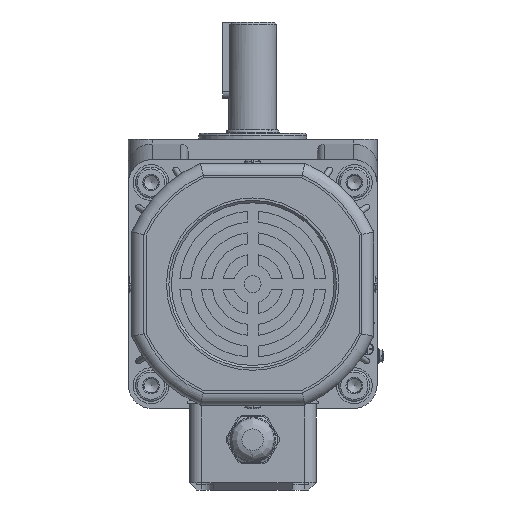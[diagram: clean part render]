
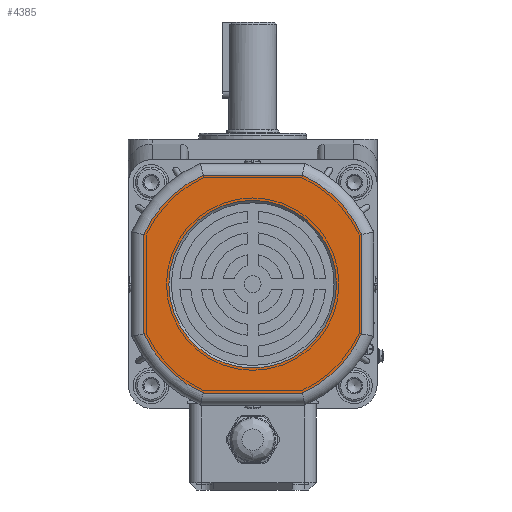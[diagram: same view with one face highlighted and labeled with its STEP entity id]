
A CAD part, left-side view. The second image highlights one B-rep face of the part: STEP entity #4385.
In plain terms, the highlighted planar face has unit normal (-1, 0, 0).
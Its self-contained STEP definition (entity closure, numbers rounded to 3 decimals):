
#4385=ADVANCED_FACE('',(#10573,#10574),#6046,.F.);
#6046=PLANE('',#32885);
#7275=LINE('',#46946,#9123);
#7276=LINE('',#46951,#9124);
#7277=LINE('',#46955,#9125);
#7278=LINE('',#46959,#9126);
#9123=VECTOR('',#37845,1.);
#9124=VECTOR('',#37848,1.);
#9125=VECTOR('',#37851,1.);
#9126=VECTOR('',#37854,1.);
#10573=FACE_BOUND('',#11887,.T.);
#10574=FACE_BOUND('',#11888,.T.);
#11887=EDGE_LOOP('',(#15928,#15929,#15930,#15931,#15932,#15933,#15934,#15935));
#11888=EDGE_LOOP('',(#15936));
#15928=ORIENTED_EDGE('',*,*,#26844,.T.);
#15929=ORIENTED_EDGE('',*,*,#26845,.T.);
#15930=ORIENTED_EDGE('',*,*,#26846,.T.);
#15931=ORIENTED_EDGE('',*,*,#26847,.T.);
#15932=ORIENTED_EDGE('',*,*,#26848,.T.);
#15933=ORIENTED_EDGE('',*,*,#26849,.T.);
#15934=ORIENTED_EDGE('',*,*,#26850,.T.);
#15935=ORIENTED_EDGE('',*,*,#26851,.T.);
#15936=ORIENTED_EDGE('',*,*,#26852,.T.);
#23442=VERTEX_POINT('',#46947);
#23443=VERTEX_POINT('',#46948);
#23444=VERTEX_POINT('',#46950);
#23445=VERTEX_POINT('',#46952);
#23446=VERTEX_POINT('',#46954);
#23447=VERTEX_POINT('',#46956);
#23448=VERTEX_POINT('',#46958);
#23449=VERTEX_POINT('',#46960);
#23450=VERTEX_POINT('',#46963);
#26844=EDGE_CURVE('',#23442,#23443,#7275,.T.);
#26845=EDGE_CURVE('',#23443,#23444,#30798,.T.);
#26846=EDGE_CURVE('',#23444,#23445,#7276,.T.);
#26847=EDGE_CURVE('',#23445,#23446,#30799,.T.);
#26848=EDGE_CURVE('',#23446,#23447,#7277,.T.);
#26849=EDGE_CURVE('',#23447,#23448,#30800,.T.);
#26850=EDGE_CURVE('',#23448,#23449,#7278,.T.);
#26851=EDGE_CURVE('',#23449,#23442,#30801,.T.);
#26852=EDGE_CURVE('',#23450,#23450,#30802,.T.);
#30798=CIRCLE('',#32880,50.);
#30799=CIRCLE('',#32881,50.);
#30800=CIRCLE('',#32882,50.);
#30801=CIRCLE('',#32883,50.);
#30802=CIRCLE('',#32884,35.);
#32880=AXIS2_PLACEMENT_3D('',#46949,#37846,#37847);
#32881=AXIS2_PLACEMENT_3D('',#46953,#37849,#37850);
#32882=AXIS2_PLACEMENT_3D('',#46957,#37852,#37853);
#32883=AXIS2_PLACEMENT_3D('',#46961,#37855,#37856);
#32884=AXIS2_PLACEMENT_3D('',#46962,#37857,#37858);
#32885=AXIS2_PLACEMENT_3D('',#46964,#37859,#37860);
#37845=DIRECTION('',(0.,-1.,0.));
#37846=DIRECTION('',(-1.,0.,0.));
#37847=DIRECTION('',(0.,0.,1.));
#37848=DIRECTION('',(0.,0.,1.));
#37849=DIRECTION('',(-1.,0.,0.));
#37850=DIRECTION('',(0.,0.,1.));
#37851=DIRECTION('',(0.,1.,0.));
#37852=DIRECTION('',(-1.,0.,0.));
#37853=DIRECTION('',(0.,0.,1.));
#37854=DIRECTION('',(0.,0.,-1.));
#37855=DIRECTION('',(-1.,0.,0.));
#37856=DIRECTION('',(0.,0.,1.));
#37857=DIRECTION('',(1.,0.,0.));
#37858=DIRECTION('',(0.,-1.,0.));
#37859=DIRECTION('',(1.,0.,0.));
#37860=DIRECTION('',(0.,0.,1.));
#46946=CARTESIAN_POINT('',(-227.8,-142.46,-103.991));
#46947=CARTESIAN_POINT('',(-227.8,-99.941,-103.991));
#46948=CARTESIAN_POINT('',(-227.8,-141.402,-103.991));
#46949=CARTESIAN_POINT('',(-227.8,-120.671,-58.491));
#46950=CARTESIAN_POINT('',(-227.8,-166.171,-79.221));
#46951=CARTESIAN_POINT('',(-227.8,-166.171,-36.702));
#46952=CARTESIAN_POINT('',(-227.8,-166.171,-37.76));
#46953=CARTESIAN_POINT('',(-227.8,-120.671,-58.491));
#46954=CARTESIAN_POINT('',(-227.8,-141.402,-12.991));
#46955=CARTESIAN_POINT('',(-227.8,-98.882,-12.991));
#46956=CARTESIAN_POINT('',(-227.8,-99.941,-12.991));
#46957=CARTESIAN_POINT('',(-227.8,-120.671,-58.491));
#46958=CARTESIAN_POINT('',(-227.8,-75.171,-37.76));
#46959=CARTESIAN_POINT('',(-227.8,-75.171,-80.28));
#46960=CARTESIAN_POINT('',(-227.8,-75.171,-79.221));
#46961=CARTESIAN_POINT('',(-227.8,-120.671,-58.491));
#46962=CARTESIAN_POINT('',(-227.8,-120.671,-58.491));
#46963=CARTESIAN_POINT('',(-227.8,-155.671,-58.491));
#46964=CARTESIAN_POINT('',(-227.8,-120.671,-58.491));
